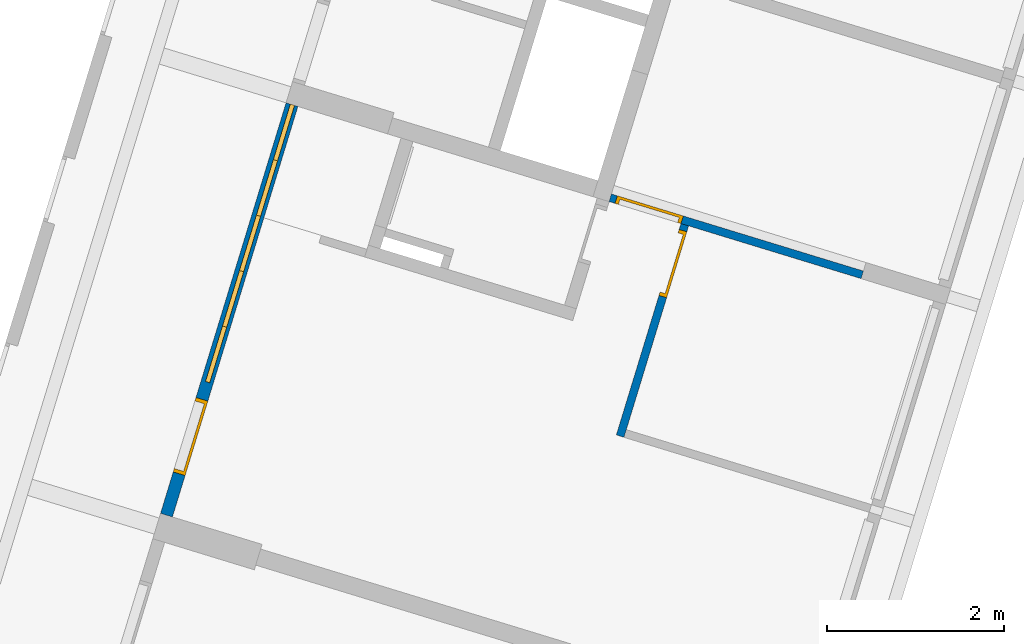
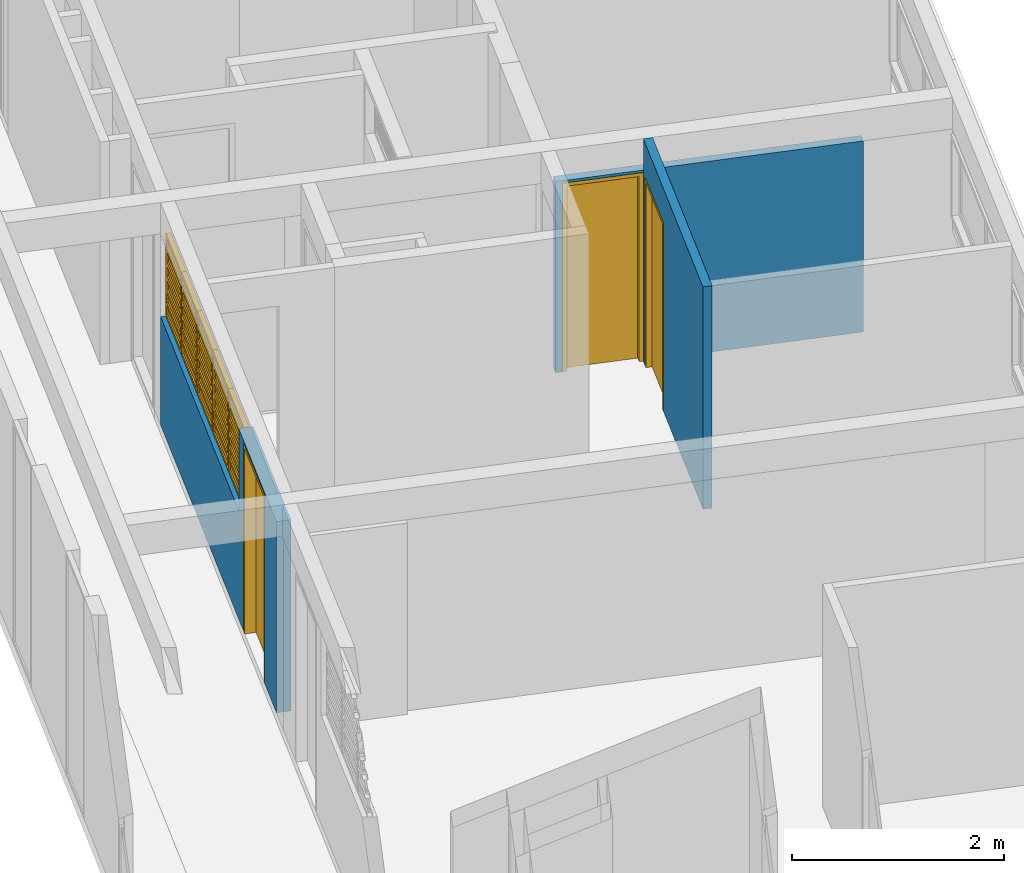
# One storey, part 3 of 18: 5 windows, 3 doors, 3 walls, 8 openings.
"""IFC2X3 building model written with IfcOpenShell, lengths in millimetres."""

from ifc_helpers import new_model, entity, si_unit, converted_unit, derived_unit, money_unit, direction, frame, origin_with_axes, place, context, subcontext, project, spatial, open_shell, faceted_brep, surface_model, source, transform, mapped, material, type_object, element, fill, save


model = new_model("IFC2X3")

# Units and contexts
model_context = context("Model", 3, precision=0.01, world=origin_with_axes(), true_north=direction((0.0, 1.0)))
body_context = subcontext(model_context, "Body", "Model", "MODEL_VIEW")
ifc_project = project(units=[si_unit("LENGTHUNIT", "METRE", prefix="MILLI"), si_unit("AREAUNIT", "SQUARE_METRE"), si_unit("VOLUMEUNIT", "CUBIC_METRE"), converted_unit("PLANEANGLEUNIT", "DEGREE", entity("IfcPlaneAngleMeasure", 0.0174532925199), si_unit("PLANEANGLEUNIT", "RADIAN"), dimensions=[0, 0, 0, 0, 0, 0, 0]), money_unit("USD"), converted_unit("TIMEUNIT", "Year", entity("IfcTimeMeasure", 31556926.0), si_unit("TIMEUNIT", "SECOND"), dimensions=[0, 0, 1, 0, 0, 0, 0]), si_unit("MASSUNIT", "GRAM", prefix="KILO"), si_unit("THERMODYNAMICTEMPERATUREUNIT", "DEGREE_CELSIUS"), si_unit("LUMINOUSINTENSITYUNIT", "LUMEN"), si_unit("ENERGYUNIT", "JOULE", prefix="MEGA"), derived_unit("THERMALCONDUCTANCEUNIT", [(si_unit("POWERUNIT", "WATT"), 1), (si_unit("LENGTHUNIT", "METRE"), -1), (si_unit("THERMODYNAMICTEMPERATUREUNIT", "KELVIN"), -1)]), derived_unit("SPECIFICHEATCAPACITYUNIT", [(si_unit("ENERGYUNIT", "JOULE"), 1), (si_unit("MASSUNIT", "GRAM", prefix="KILO"), -1), (si_unit("THERMODYNAMICTEMPERATUREUNIT", "KELVIN"), -1)]), derived_unit("MASSDENSITYUNIT", [(si_unit("MASSUNIT", "GRAM", prefix="KILO"), 1), (si_unit("VOLUMEUNIT", "CUBIC_METRE"), -1)])], contexts=[model_context])

# Site, building, storey, space
site_placement = place(None, frame((0.0, 0.0, 0.0), z_axis=(0.0, 0.0, 1.0), x_axis=(0.956304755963, -0.292371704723, 0.0)))
site = spatial("IfcSite", under=ifc_project, at=site_placement, Name="Site", CompositionType="ELEMENT")
building_placement = place(site_placement, origin_with_axes())
building = spatial("IfcBuilding", under=site, at=building_placement, Name="Building", CompositionType="ELEMENT")
storey_placement = place(building_placement, origin_with_axes())
storey = spatial("IfcBuildingStorey", under=building, at=storey_placement, Name="Pavimento tipo", CompositionType="ELEMENT", Elevation=0.0)
space_placement = place(storey_placement, frame((2841.71096673, 14639.9999947, 0.0), z_axis=(0.0, 0.0, 1.0), x_axis=(1.0, 1.43937078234e-07, 0.0)))
space = spatial("IfcSpace", under=storey, at=space_placement, Name="03", CompositionType="ELEMENT", InteriorOrExteriorSpace="INTERNAL")

# Wall, opening, door
ifc_material = material(Name="Tijolo - Estrutural")
wall_type_1 = type_object("IfcWallType", Name="Tijolo - Estrutural 90", PredefinedType="NOTDEFINED")
wall_1_placement = place(space_placement, frame((5600.00072263, 4909.98388379, 0.0), z_axis=(0.0, 0.0, 1.0), x_axis=(-1.0, 1.45674714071e-07, 0.0)))
wall_1 = element("IfcWall", 1, at=wall_1_placement, inside=space, type_object=wall_type_1, material=ifc_material, Name="Apt 03 - Parede 29", context=body_context, shape_type="Brep", body=[
    faceted_brep([(2909.99999781, -89.9999949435, 2170.0), (2909.99999781, -89.9999949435, 0.0), (2979.99987116, -89.9999948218, 0.0), (2979.99987116, -89.9999948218, 2200.0), (1.56386903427e-07, -90.0, 2200.0), (1.56386903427e-07, -90.0, 0.0), (2129.99999781, -89.9999962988, 0.0), (2129.99999781, -89.9999962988, 2170.0), (2909.99999766, 5.05652053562e-06, 2170.0), (2909.99999766, 5.05652053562e-06, 0.0), (2979.99994213, 5.17815479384e-06, 0.0), (2979.99994213, 5.17815479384e-06, 2200.0), (0.0, 0.0, 2200.0), (0.0, 0.0, 0.0), (2129.99999766, 3.70116381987e-06, 0.0), (2129.99999766, 3.70116381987e-06, 2170.0)], [[[0, 1, 2, 3, 4, 5, 6, 7]], [[1, 0, 8, 9]], [[1, 9, 10, 2]], [[2, 10, 11, 3]], [[3, 11, 12, 4]], [[12, 13, 5, 4]], [[14, 6, 5, 13]], [[7, 6, 14, 15]], [[0, 7, 15, 8]], [[15, 14, 13, 12, 11, 10, 9, 8]]]),
])
opening_1_placement = place(wall_1_placement, frame((2519.99999781, 0.0, 0.0), z_axis=(0.0, 0.0, 1.0), x_axis=(1.0, 0.0, 0.0)))
opening_1 = element("IfcOpeningElement", 2, at=opening_1_placement, cuts=wall_1, Name="Apt 03 - Porta 07", context=body_context, shape_type="Brep", body=[
    faceted_brep([(-389.999999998, -91.000001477, 2170.0), (-389.999999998, -91.000001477, 0.0), (390.000000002, -91.0000001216, 0.0), (390.000000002, -91.0000001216, 2170.0), (-390.000000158, 1.00000370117, 2170.0), (-390.000000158, 1.00000370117, 0.0), (389.999999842, 1.00000505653, 0.0), (389.999999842, 1.00000505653, 2170.0)], [[[0, 1, 2, 3]], [[4, 5, 1, 0]], [[5, 6, 2, 1]], [[6, 7, 3, 2]], [[7, 4, 0, 3]], [[6, 5, 4, 7]]]),
])
door_style_1 = type_object("IfcDoorStyle", Name="Door 26", ConstructionType="NOTDEFINED", OperationType="SINGLE_SWING_LEFT", ParameterTakesPrecedence=False, Sizeable=False)
shared_shape_1 = source(origin_with_axes(), body_context, "Body", "Brep", [
    faceted_brep([(350.0, -30.0, 0.0), (350.0, -90.0, 0.0), (350.0, -90.0, 2130.0), (350.0, -30.0, 2130.0), (360.0, -30.0, 0.0), (360.0, 0.0, 0.0), (390.0, 0.0, 0.0), (390.0, -90.0, 0.0), (390.0, -90.0, 2130.0), (360.0, -30.0, 2130.0), (390.0, 0.0, 2130.0), (360.0, 0.0, 2130.0)], [[[0, 1, 2, 3]], [[4, 5, 6, 7, 1, 0]], [[1, 7, 8, 2]], [[9, 3, 2, 8, 10, 11]], [[9, 4, 0, 3]], [[11, 5, 4, 9]], [[11, 10, 6, 5]], [[6, 10, 8, 7]]]),
    faceted_brep([(-360.0, -30.0, 2130.0), (-360.0, 0.0, 2130.0), (-390.0, 0.0, 2130.0), (-390.0, -90.0, 2130.0), (-350.0, -90.0, 2130.0), (-350.0, -30.0, 2130.0), (-360.0, -30.0, 0.0), (-360.0, 0.0, 0.0), (-390.0, 0.0, 0.0), (-390.0, -90.0, 0.0), (-350.0, -90.0, 0.0), (-350.0, -30.0, 0.0)], [[[0, 1, 2, 3, 4, 5]], [[0, 6, 7, 1]], [[7, 8, 2, 1]], [[2, 8, 9, 3]], [[3, 9, 10, 4]], [[5, 4, 10, 11]], [[5, 11, 6, 0]], [[6, 11, 10, 9, 8, 7]]]),
    faceted_brep([(360.0, 0.0, 2140.0), (-360.0, 0.0, 2140.0), (-360.0, 0.0, 2130.0), (-390.0, 0.0, 2130.0), (-390.0, 0.0, 2170.0), (390.0, 0.0, 2170.0), (390.0, 0.0, 2130.0), (360.0, 0.0, 2130.0), (360.0, -30.0, 2140.0), (-360.0, -30.0, 2140.0), (-360.0, -30.0, 2130.0), (-350.0, -30.0, 2130.0), (-350.0, -90.0, 2130.0), (-390.0, -90.0, 2130.0), (-390.0, -90.0, 2170.0), (390.0, -90.0, 2170.0), (390.0, -90.0, 2130.0), (360.0, -30.0, 2130.0), (350.0, -90.0, 2130.0), (350.0, -30.0, 2130.0)], [[[0, 1, 2, 3, 4, 5, 6, 7]], [[0, 8, 9, 1]], [[1, 9, 10, 2]], [[10, 11, 12, 13, 3, 2]], [[4, 3, 13, 14]], [[5, 4, 14, 15]], [[6, 5, 15, 16]], [[17, 7, 6, 16, 18, 19]], [[7, 17, 8, 0]], [[10, 9, 8, 17, 19, 11]], [[19, 18, 12, 11]], [[12, 18, 16, 15, 14, 13]]]),
    faceted_brep([(-360.0, 0.0, 0.0), (360.0, 0.0, 0.0), (360.0, -30.0, 0.0), (-360.0, -30.0, 0.0), (-360.0, 0.0, 2140.0), (360.0, 0.0, 2140.0), (360.0, -30.0, 2140.0), (-360.0, -30.0, 2140.0)], [[[0, 1, 2, 3]], [[0, 4, 5, 1]], [[1, 5, 6, 2]], [[3, 2, 6, 7]], [[4, 0, 3, 7]], [[5, 4, 7, 6]]]),
])
door_1_placement = place(opening_1_placement, frame((390.0, 0.0, 0.0), z_axis=(0.0, 0.0, 1.0), x_axis=(-1.0, 0.0, 0.0)))
door_1 = element("IfcDoor", 3, at=door_1_placement, inside=space, type_object=door_style_1, Name="Apt 03 - Porta 07", OverallHeight=2170.0, OverallWidth=780.0, context=body_context, shape_type="MappedRepresentation", body=[
    mapped(shared_shape_1, transform((390.0, 89.9999956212, 0.0))),
])
fill(opening_1, door_1)

wall_2_placement = place(space_placement, frame((3515.00072489, 4909.98418752, 0.0), z_axis=(0.0, 0.0, 1.0), x_axis=(-1.43937078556e-07, -1.0, 0.0)))
wall_2 = element("IfcWall", 4, at=wall_2_placement, inside=space, type_object=wall_type_1, material=ifc_material, Name="Apt 03 - Parede 40", context=body_context, shape_type="Brep", body=[
    faceted_brep([(849.778819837, 45.0, 0.0), (849.778819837, 45.0, 2170.0), (69.7788198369, 45.0, 2170.0), (69.7788198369, 45.0, 0.0), (3.6229685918e-06, 45.0, 0.0), (3.6229685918e-06, 45.0, 2200.0), (0.0, 45.0, 2560.0), (2499.9999754, 45.0, 2560.0), (2499.9999754, 45.0, 0.0), (849.778819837, -45.0, 0.0), (849.778819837, -45.0, 2170.0), (69.7788198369, -45.0, 2170.0), (69.7788198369, -45.0, 0.0), (3.6229685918e-06, -45.0, 0.0), (3.6229685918e-06, -45.0, 2200.0), (0.0, -45.0, 2560.0), (2500.00003182, -45.0, 2560.0), (2500.00003182, -45.0, 0.0)], [[[0, 1, 2, 3, 4, 5, 6, 7, 8]], [[1, 0, 9, 10]], [[2, 1, 10, 11]], [[3, 2, 11, 12]], [[3, 12, 13, 4]], [[13, 14, 5, 4]], [[6, 5, 14, 15]], [[16, 7, 6, 15]], [[17, 8, 7, 16]], [[9, 0, 8, 17]], [[10, 9, 17, 16, 15, 14, 13, 12, 11]]]),
])
opening_2_placement = place(wall_2_placement, frame((459.778819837, 0.0, 0.0), z_axis=(0.0, 0.0, 1.0), x_axis=(1.0, 0.0, 0.0)))
opening_2 = element("IfcOpeningElement", 5, at=opening_2_placement, cuts=wall_2, Name="Apt 03 - Porta 08", context=body_context, shape_type="Brep", body=[
    faceted_brep([(390.0, 46.0, 2170.0), (390.0, 46.0, 0.0), (-390.0, 46.0, 0.0), (-390.0, 46.0, 2170.0), (390.0, -46.0, 2170.0), (390.0, -46.0, 0.0), (-390.0, -46.0, 0.0), (-390.0, -46.0, 2170.0)], [[[0, 1, 2, 3]], [[4, 5, 1, 0]], [[5, 6, 2, 1]], [[6, 7, 3, 2]], [[7, 4, 0, 3]], [[6, 5, 4, 7]]]),
])
door_2_placement = place(opening_2_placement, frame((-390.0, 0.0, 0.0), z_axis=(0.0, 0.0, 1.0), x_axis=(1.0, 0.0, 0.0)))
door_2 = element("IfcDoor", 6, at=door_2_placement, inside=space, type_object=door_style_1, Name="Apt 03 - Porta 08", OverallHeight=2170.0, OverallWidth=780.0, context=body_context, shape_type="MappedRepresentation", body=[
    mapped(shared_shape_1, transform((390.0, 45.0, 0.0))),
])
fill(opening_2, door_2)

# Wall, openings, windows, door
wall_type_2 = type_object("IfcWallType", Name="Tijolo - Estrutural 140", PredefinedType="NOTDEFINED")
wall_3_placement = place(storey_placement, frame((1711.71098285, 19549.9999933, 0.0), z_axis=(0.0, 0.0, 1.0), x_axis=(0.0, -1.0, 0.0)))
wall_3 = element("IfcWall", 7, at=wall_3_placement, inside=storey, type_object=wall_type_2, material=ifc_material, Name="Apt 03 - Parede 34", context=body_context, shape_type="Brep", body=[
    faceted_brep([(4364.99999858, 70.0, 0.0), (4364.99999858, 70.0, 2170.0), (3484.99999858, 70.0, 2170.0), (3484.99999858, 70.0, 0.0), (0.0, 70.0, 0.0), (0.0, 70.0, 1250.0), (3280.0, 70.0, 1250.0), (3280.0, 70.0, 2200.0), (4854.99999858, 70.0, 2200.0), (4854.99999858, 70.0, 0.0), (4364.99999858, -70.0, 0.0), (4364.99999858, -70.0, 2170.0), (3484.99999858, -70.0, 2170.0), (3484.99999858, -70.0, 0.0), (0.0, -70.0, 0.0), (0.0, -70.0, 1250.0), (3280.0, -70.0, 1250.0), (3280.0, -70.0, 2200.0), (4854.99999858, -70.0, 2200.0), (4854.99999858, -70.0, 0.0)], [[[0, 1, 2, 3, 4, 5, 6, 7, 8, 9]], [[1, 0, 10, 11]], [[2, 1, 11, 12]], [[3, 2, 12, 13]], [[3, 13, 14, 4]], [[4, 14, 15, 5]], [[15, 16, 6, 5]], [[6, 16, 17, 7]], [[17, 18, 8, 7]], [[8, 18, 19, 9]], [[10, 0, 9, 19]], [[11, 10, 19, 18, 17, 16, 15, 14, 13, 12]]]),
])
opening_3_placement = place(wall_3_placement, frame((328.0, 0.0, 1250.0), z_axis=(0.0, 0.0, 1.0), x_axis=(1.0, 0.0, 0.0)))
opening_3 = element("IfcOpeningElement", 8, at=opening_3_placement, cuts=wall_3, Name="Apt 03 - J14", context=body_context, shape_type="Brep", body=[
    faceted_brep([(328.0, -20.0, 0.0), (328.0, -20.0, 950.0), (328.0, -71.0, 950.0), (328.0, -71.0, 0.0), (328.0, 71.0, 0.0), (328.0, 71.0, 950.0), (-328.0, -20.0, 950.0), (-328.0, -71.0, 950.0), (-328.0, 71.0, 950.0), (-328.0, -71.0, 0.0), (-328.0, -20.0, 0.0), (-328.0, 71.0, 0.0)], [[[0, 1, 2, 3]], [[1, 0, 4, 5]], [[6, 7, 2, 1, 5, 8]], [[7, 9, 3, 2]], [[0, 3, 9, 10, 11, 4]], [[5, 4, 11, 8]], [[6, 10, 9, 7]], [[10, 6, 8, 11]]]),
])
opening_4_placement = place(wall_3_placement, frame((984.0, 0.0, 1250.0), z_axis=(0.0, 0.0, 1.0), x_axis=(1.0, 0.0, 0.0)))
opening_4 = element("IfcOpeningElement", 9, at=opening_4_placement, cuts=wall_3, Name="Apt 03 - J15", context=body_context, shape_type="Brep", body=[
    faceted_brep([(328.0, -20.0, 0.0), (328.0, -20.0, 950.0), (328.0, -71.0, 950.0), (328.0, -71.0, 0.0), (328.0, 71.0, 0.0), (328.0, 71.0, 950.0), (-328.0, -20.0, 950.0), (-328.0, -71.0, 950.0), (-328.0, 71.0, 950.0), (-328.0, -71.0, 0.0), (-328.0, -20.0, 0.0), (-328.0, 71.0, 0.0)], [[[0, 1, 2, 3]], [[1, 0, 4, 5]], [[6, 7, 2, 1, 5, 8]], [[7, 9, 3, 2]], [[0, 3, 9, 10, 11, 4]], [[5, 4, 11, 8]], [[6, 10, 9, 7]], [[10, 6, 8, 11]]]),
])
opening_5_placement = place(wall_3_placement, frame((1640.0, 0.0, 1250.0), z_axis=(0.0, 0.0, 1.0), x_axis=(1.0, 0.0, 0.0)))
opening_5 = element("IfcOpeningElement", 10, at=opening_5_placement, cuts=wall_3, Name="Apt 03 - J16", context=body_context, shape_type="Brep", body=[
    faceted_brep([(328.0, -20.0, 0.0), (328.0, -20.0, 950.0), (328.0, -71.0, 950.0), (328.0, -71.0, 0.0), (328.0, 71.0, 0.0), (328.0, 71.0, 950.0), (-328.0, -20.0, 950.0), (-328.0, -71.0, 950.0), (-328.0, 71.0, 950.0), (-328.0, -71.0, 0.0), (-328.0, -20.0, 0.0), (-328.0, 71.0, 0.0)], [[[0, 1, 2, 3]], [[1, 0, 4, 5]], [[6, 7, 2, 1, 5, 8]], [[7, 9, 3, 2]], [[0, 3, 9, 10, 11, 4]], [[5, 4, 11, 8]], [[6, 10, 9, 7]], [[10, 6, 8, 11]]]),
])
opening_6_placement = place(wall_3_placement, frame((2296.0, 0.0, 1250.0), z_axis=(0.0, 0.0, 1.0), x_axis=(1.0, 0.0, 0.0)))
opening_6 = element("IfcOpeningElement", 11, at=opening_6_placement, cuts=wall_3, Name="Apt 03 - J17", context=body_context, shape_type="Brep", body=[
    faceted_brep([(328.0, -20.0, 0.0), (328.0, -20.0, 950.0), (328.0, -71.0, 950.0), (328.0, -71.0, 0.0), (328.0, 71.0, 0.0), (328.0, 71.0, 950.0), (-328.0, -20.0, 950.0), (-328.0, -71.0, 950.0), (-328.0, 71.0, 950.0), (-328.0, -71.0, 0.0), (-328.0, -20.0, 0.0), (-328.0, 71.0, 0.0)], [[[0, 1, 2, 3]], [[1, 0, 4, 5]], [[6, 7, 2, 1, 5, 8]], [[7, 9, 3, 2]], [[0, 3, 9, 10, 11, 4]], [[5, 4, 11, 8]], [[6, 10, 9, 7]], [[10, 6, 8, 11]]]),
])
opening_7_placement = place(wall_3_placement, frame((2952.0, 0.0, 1250.0), z_axis=(0.0, 0.0, 1.0), x_axis=(1.0, 0.0, 0.0)))
opening_7 = element("IfcOpeningElement", 12, at=opening_7_placement, cuts=wall_3, Name="Apt 03 - J18", context=body_context, shape_type="Brep", body=[
    faceted_brep([(328.0, -20.0, 0.0), (328.0, -20.0, 950.0), (328.0, -71.0, 950.0), (328.0, -71.0, 0.0), (328.0, 71.0, 0.0), (328.0, 71.0, 950.0), (-328.0, -20.0, 950.0), (-328.0, -71.0, 950.0), (-328.0, 71.0, 950.0), (-328.0, -71.0, 0.0), (-328.0, -20.0, 0.0), (-328.0, 71.0, 0.0)], [[[0, 1, 2, 3]], [[1, 0, 4, 5]], [[6, 7, 2, 1, 5, 8]], [[7, 9, 3, 2]], [[0, 3, 9, 10, 11, 4]], [[5, 4, 11, 8]], [[6, 10, 9, 7]], [[10, 6, 8, 11]]]),
])
opening_8_placement = place(wall_3_placement, frame((3924.99999858, 0.0, 0.0), z_axis=(0.0, 0.0, 1.0), x_axis=(1.0, 0.0, 0.0)))
opening_8 = element("IfcOpeningElement", 13, at=opening_8_placement, cuts=wall_3, Name="Apt 03 - Porta 06", context=body_context, shape_type="Brep", body=[
    faceted_brep([(440.0, 71.0, 2170.0), (440.0, 71.0, 0.0), (-440.0, 71.0, 0.0), (-440.0, 71.0, 2170.0), (440.0, -71.0, 2170.0), (440.0, -71.0, 0.0), (-440.0, -71.0, 0.0), (-440.0, -71.0, 2170.0)], [[[0, 1, 2, 3]], [[4, 5, 1, 0]], [[5, 6, 2, 1]], [[6, 7, 3, 2]], [[7, 4, 0, 3]], [[6, 5, 4, 7]]]),
])
window_style = type_object("IfcWindowStyle", Name="Janela Multi-Caixilho Vertical 26", ConstructionType="NOTDEFINED", OperationType="USERDEFINED", ParameterTakesPrecedence=False, Sizeable=False)
shared_shape_2 = source(origin_with_axes(), body_context, "Body", "SurfaceModel", [
    faceted_brep([(-293.0, -50.0, 915.0), (-293.0, 0.0, 915.0), (-328.0, 0.0, 915.0), (-328.0, -50.0, 915.0), (-293.0, -50.0, 807.5), (-293.0, 0.0, 807.5), (-283.0, 0.0, 762.5), (-283.0, 0.0, 655.0), (-283.0, 0.0, 600.0), (-283.0, 0.0, 492.5), (-283.0, 0.0, 437.5), (-283.0, 0.0, 330.0), (-293.0, 0.0, 285.0), (-293.0, 0.0, 177.5), (-293.0, 0.0, 142.5), (-293.0, 0.0, 35.0), (-328.0, 0.0, 35.0), (-328.0, -50.0, 35.0), (-293.0, -50.0, 35.0), (-293.0, -50.0, 142.5), (-293.0, -50.0, 177.5), (-293.0, -50.0, 285.0), (-283.0, -50.0, 330.0), (-283.0, -50.0, 437.5), (-283.0, -50.0, 492.5), (-283.0, -50.0, 600.0), (-283.0, -50.0, 655.0), (-283.0, -50.0, 762.5)], [[[0, 1, 2, 3]], [[4, 5, 1, 0]], [[1, 5, 6, 7, 8, 9, 10, 11, 12, 13, 14, 15, 16, 2]], [[3, 2, 16, 17]], [[0, 3, 17, 18, 19, 20, 21, 22, 23, 24, 25, 26, 27, 4]], [[27, 6, 5, 4]], [[26, 7, 6, 27]], [[25, 8, 7, 26]], [[24, 9, 8, 25]], [[23, 10, 9, 24]], [[22, 11, 10, 23]], [[21, 12, 11, 22]], [[20, 13, 12, 21]], [[19, 14, 13, 20]], [[18, 15, 14, 19]], [[17, 16, 15, 18]]]),
    faceted_brep([(293.0, -50.0, 807.5), (293.0, 0.0, 807.5), (283.0, 0.0, 762.5), (283.0, -50.0, 762.5), (293.0, -50.0, 915.0), (293.0, 0.0, 915.0), (328.0, 0.0, 915.0), (328.0, 0.0, 35.0), (293.0, 0.0, 35.0), (293.0, 0.0, 142.5), (293.0, 0.0, 177.5), (293.0, 0.0, 285.0), (283.0, 0.0, 330.0), (283.0, 0.0, 437.5), (283.0, 0.0, 492.5), (283.0, 0.0, 600.0), (283.0, 0.0, 655.0), (283.0, -50.0, 655.0), (283.0, -50.0, 600.0), (283.0, -50.0, 492.5), (283.0, -50.0, 437.5), (283.0, -50.0, 330.0), (293.0, -50.0, 285.0), (293.0, -50.0, 177.5), (293.0, -50.0, 142.5), (293.0, -50.0, 35.0), (328.0, -50.0, 35.0), (328.0, -50.0, 915.0)], [[[0, 1, 2, 3]], [[4, 5, 1, 0]], [[1, 5, 6, 7, 8, 9, 10, 11, 12, 13, 14, 15, 16, 2]], [[3, 2, 16, 17]], [[0, 3, 17, 18, 19, 20, 21, 22, 23, 24, 25, 26, 27, 4]], [[27, 6, 5, 4]], [[26, 7, 6, 27]], [[25, 8, 7, 26]], [[24, 9, 8, 25]], [[23, 10, 9, 24]], [[22, 11, 10, 23]], [[21, 12, 11, 22]], [[20, 13, 12, 21]], [[19, 14, 13, 20]], [[18, 15, 14, 19]], [[17, 16, 15, 18]]]),
    faceted_brep([(293.0, -50.0, 915.0), (293.0, 0.0, 915.0), (328.0, 0.0, 915.0), (328.0, -50.0, 915.0), (-293.0, -50.0, 915.0), (-293.0, 0.0, 915.0), (-328.0, 0.0, 915.0), (-328.0, 0.0, 950.0), (328.0, 0.0, 950.0), (328.0, -50.0, 950.0), (-328.0, -50.0, 950.0), (-328.0, -50.0, 915.0)], [[[0, 1, 2, 3]], [[4, 5, 1, 0]], [[1, 5, 6, 7, 8, 2]], [[3, 2, 8, 9]], [[0, 3, 9, 10, 11, 4]], [[11, 6, 5, 4]], [[10, 7, 6, 11]], [[9, 8, 7, 10]]]),
    faceted_brep([(-293.0, -50.0, 35.0), (-293.0, 0.0, 35.0), (-328.0, 0.0, 35.0), (-328.0, -50.0, 35.0), (293.0, -50.0, 35.0), (293.0, 0.0, 35.0), (328.0, 0.0, 35.0), (328.0, 0.0, 0.0), (-328.0, 0.0, 0.0), (-328.0, -50.0, 0.0), (328.0, -50.0, 0.0), (328.0, -50.0, 35.0)], [[[0, 1, 2, 3]], [[4, 5, 1, 0]], [[1, 5, 6, 7, 8, 2]], [[3, 2, 8, 9]], [[0, 3, 9, 10, 11, 4]], [[11, 6, 5, 4]], [[10, 7, 6, 11]], [[9, 8, 7, 10]]]),
    faceted_brep([(293.0, -50.0, 177.5), (293.0, 0.0, 177.5), (-293.0, 0.0, 177.5), (-293.0, -50.0, 177.5), (293.0, -50.0, 142.5), (293.0, 0.0, 142.5), (-293.0, 0.0, 142.5), (-293.0, -50.0, 142.5)], [[[0, 1, 2, 3]], [[4, 5, 1, 0]], [[1, 5, 6, 2]], [[3, 2, 6, 7]], [[0, 3, 7, 4]], [[7, 6, 5, 4]]]),
    faceted_brep([(283.0, -50.0, 330.0), (283.0, 0.0, 330.0), (-283.0, 0.0, 330.0), (-283.0, -50.0, 330.0), (293.0, -50.0, 285.0), (293.0, 0.0, 285.0), (-293.0, 0.0, 285.0), (-293.0, -50.0, 285.0)], [[[0, 1, 2, 3]], [[4, 5, 1, 0]], [[1, 5, 6, 2]], [[3, 2, 6, 7]], [[0, 3, 7, 4]], [[7, 6, 5, 4]]]),
    faceted_brep([(283.0, -50.0, 492.5), (283.0, 0.0, 492.5), (-283.0, 0.0, 492.5), (-283.0, -50.0, 492.5), (283.0, -50.0, 437.5), (283.0, 0.0, 437.5), (-283.0, 0.0, 437.5), (-283.0, -50.0, 437.5)], [[[0, 1, 2, 3]], [[4, 5, 1, 0]], [[1, 5, 6, 2]], [[3, 2, 6, 7]], [[0, 3, 7, 4]], [[7, 6, 5, 4]]]),
    faceted_brep([(283.0, -50.0, 655.0), (283.0, 0.0, 655.0), (-283.0, 0.0, 655.0), (-283.0, -50.0, 655.0), (283.0, -50.0, 600.0), (283.0, 0.0, 600.0), (-283.0, 0.0, 600.0), (-283.0, -50.0, 600.0)], [[[0, 1, 2, 3]], [[4, 5, 1, 0]], [[1, 5, 6, 2]], [[3, 2, 6, 7]], [[0, 3, 7, 4]], [[7, 6, 5, 4]]]),
    faceted_brep([(293.0, -50.0, 807.5), (293.0, 0.0, 807.5), (-293.0, 0.0, 807.5), (-293.0, -50.0, 807.5), (283.0, -50.0, 762.5), (283.0, 0.0, 762.5), (-283.0, 0.0, 762.5), (-283.0, -50.0, 762.5)], [[[0, 1, 2, 3]], [[4, 5, 1, 0]], [[1, 5, 6, 2]], [[3, 2, 6, 7]], [[0, 3, 7, 4]], [[7, 6, 5, 4]]]),
    surface_model("IfcShellBasedSurfaceModel", [(-293.0, -35.0, 35.0), (293.0, -35.0, 35.0), (293.0, -35.0, 142.5), (-293.0, -35.0, 142.5)], [open_shell([[[0, 1, 2, 3]]])]),
    surface_model("IfcShellBasedSurfaceModel", [(-293.0, -15.0, 35.0), (-293.0, -15.0, 142.5), (293.0, -15.0, 142.5), (293.0, -15.0, 35.0)], [open_shell([[[0, 1, 2, 3]]])]),
    surface_model("IfcShellBasedSurfaceModel", [(-293.0, -35.0, 177.5), (293.0, -35.0, 177.5), (293.0, -35.0, 285.0), (-293.0, -35.0, 285.0)], [open_shell([[[0, 1, 2, 3]]])]),
    surface_model("IfcShellBasedSurfaceModel", [(-293.0, -15.0, 177.5), (-293.0, -15.0, 285.0), (293.0, -15.0, 285.0), (293.0, -15.0, 177.5)], [open_shell([[[0, 1, 2, 3]]])]),
    surface_model("IfcShellBasedSurfaceModel", [(-283.0, -15.0, 330.0), (-283.0, -15.0, 437.5), (283.0, -15.0, 437.5), (283.0, -15.0, 330.0)], [open_shell([[[0, 1, 2, 3]]])]),
    surface_model("IfcShellBasedSurfaceModel", [(-283.0, -35.0, 330.0), (283.0, -35.0, 330.0), (283.0, -35.0, 437.5), (-283.0, -35.0, 437.5)], [open_shell([[[0, 1, 2, 3]]])]),
    surface_model("IfcShellBasedSurfaceModel", [(-283.0, -15.0, 492.5), (-283.0, -15.0, 600.0), (283.0, -15.0, 600.0), (283.0, -15.0, 492.5)], [open_shell([[[0, 1, 2, 3]]])]),
    surface_model("IfcShellBasedSurfaceModel", [(-283.0, -35.0, 492.5), (283.0, -35.0, 492.5), (283.0, -35.0, 600.0), (-283.0, -35.0, 600.0)], [open_shell([[[0, 1, 2, 3]]])]),
    surface_model("IfcShellBasedSurfaceModel", [(-283.0, -15.0, 655.0), (-283.0, -15.0, 762.5), (283.0, -15.0, 762.5), (283.0, -15.0, 655.0)], [open_shell([[[0, 1, 2, 3]]])]),
    surface_model("IfcShellBasedSurfaceModel", [(-283.0, -35.0, 655.0), (283.0, -35.0, 655.0), (283.0, -35.0, 762.5), (-283.0, -35.0, 762.5)], [open_shell([[[0, 1, 2, 3]]])]),
    surface_model("IfcShellBasedSurfaceModel", [(-293.0, -35.0, 807.5), (293.0, -35.0, 807.5), (293.0, -35.0, 915.0), (-293.0, -35.0, 915.0)], [open_shell([[[0, 1, 2, 3]]])]),
    surface_model("IfcShellBasedSurfaceModel", [(-293.0, -15.0, 807.5), (-293.0, -15.0, 915.0), (293.0, -15.0, 915.0), (293.0, -15.0, 807.5)], [open_shell([[[0, 1, 2, 3]]])]),
])
window_1_placement = place(opening_3_placement, frame((328.0, 0.0, 0.0), z_axis=(0.0, 0.0, 1.0), x_axis=(-1.0, 0.0, 0.0)))
window_1 = element("IfcWindow", 14, at=window_1_placement, inside=storey, type_object=window_style, Name="Apt 03 - J14", OverallHeight=950.0, OverallWidth=656.0, context=body_context, shape_type="MappedRepresentation", body=[
    mapped(shared_shape_2, transform((328.0, 20.0, 0.0))),
])
fill(opening_3, window_1)
window_2_placement = place(opening_4_placement, frame((328.0, 0.0, 0.0), z_axis=(0.0, 0.0, 1.0), x_axis=(-1.0, 0.0, 0.0)))
window_2 = element("IfcWindow", 15, at=window_2_placement, inside=storey, type_object=window_style, Name="Apt 03 - J15", OverallHeight=950.0, OverallWidth=656.0, context=body_context, shape_type="MappedRepresentation", body=[
    mapped(shared_shape_2, transform((328.0, 20.0, 0.0))),
])
fill(opening_4, window_2)
window_3_placement = place(opening_5_placement, frame((328.0, 0.0, 0.0), z_axis=(0.0, 0.0, 1.0), x_axis=(-1.0, 0.0, 0.0)))
window_3 = element("IfcWindow", 16, at=window_3_placement, inside=storey, type_object=window_style, Name="Apt 03 - J16", OverallHeight=950.0, OverallWidth=656.0, context=body_context, shape_type="MappedRepresentation", body=[
    mapped(shared_shape_2, transform((328.0, 20.0, 0.0))),
])
fill(opening_5, window_3)
window_4_placement = place(opening_6_placement, frame((328.0, 0.0, 0.0), z_axis=(0.0, 0.0, 1.0), x_axis=(-1.0, 0.0, 0.0)))
window_4 = element("IfcWindow", 17, at=window_4_placement, inside=storey, type_object=window_style, Name="Apt 03 - J17", OverallHeight=950.0, OverallWidth=656.0, context=body_context, shape_type="MappedRepresentation", body=[
    mapped(shared_shape_2, transform((328.0, 20.0, 0.0))),
])
fill(opening_6, window_4)
window_5_placement = place(opening_7_placement, frame((328.0, 0.0, 0.0), z_axis=(0.0, 0.0, 1.0), x_axis=(-1.0, 0.0, 0.0)))
window_5 = element("IfcWindow", 18, at=window_5_placement, inside=storey, type_object=window_style, Name="Apt 03 - J18", OverallHeight=950.0, OverallWidth=656.0, context=body_context, shape_type="MappedRepresentation", body=[
    mapped(shared_shape_2, transform((328.0, 20.0, 0.0))),
])
fill(opening_7, window_5)
door_style_2 = type_object("IfcDoorStyle", Name="Door 26", ConstructionType="NOTDEFINED", OperationType="SINGLE_SWING_RIGHT", ParameterTakesPrecedence=False, Sizeable=False)
shared_shape_3 = source(origin_with_axes(), body_context, "Body", "Brep", [
    faceted_brep([(-400.0, -30.0, 0.0), (-400.0, -30.0, 2130.0), (-400.0, -140.0, 2130.0), (-400.0, -140.0, 0.0), (-410.0, -30.0, 2130.0), (-410.0, -30.0, 0.0), (-410.0, 0.0, 2130.0), (-440.0, 0.0, 2130.0), (-440.0, -140.0, 2130.0), (-440.0, -140.0, 0.0), (-440.0, 0.0, 0.0), (-410.0, 0.0, 0.0)], [[[0, 1, 2, 3]], [[4, 1, 0, 5]], [[4, 6, 7, 8, 2, 1]], [[3, 2, 8, 9]], [[5, 0, 3, 9, 10, 11]], [[6, 4, 5, 11]], [[6, 11, 10, 7]], [[10, 9, 8, 7]]]),
    faceted_brep([(410.0, -30.0, 2130.0), (400.0, -30.0, 2130.0), (400.0, -140.0, 2130.0), (440.0, -140.0, 2130.0), (440.0, 0.0, 2130.0), (410.0, 0.0, 2130.0), (410.0, -30.0, 0.0), (400.0, -30.0, 0.0), (400.0, -140.0, 0.0), (440.0, -140.0, 0.0), (440.0, 0.0, 0.0), (410.0, 0.0, 0.0)], [[[0, 1, 2, 3, 4, 5]], [[1, 0, 6, 7]], [[1, 7, 8, 2]], [[3, 2, 8, 9]], [[4, 3, 9, 10]], [[11, 5, 4, 10]], [[0, 5, 11, 6]], [[6, 11, 10, 9, 8, 7]]]),
    faceted_brep([(-410.0, 0.0, 2140.0), (-410.0, 0.0, 2130.0), (-440.0, 0.0, 2130.0), (-440.0, 0.0, 2170.0), (440.0, 0.0, 2170.0), (440.0, 0.0, 2130.0), (410.0, 0.0, 2130.0), (410.0, 0.0, 2140.0), (-410.0, -30.0, 2140.0), (-410.0, -30.0, 2130.0), (-400.0, -30.0, 2130.0), (-400.0, -140.0, 2130.0), (-440.0, -140.0, 2130.0), (-440.0, -140.0, 2170.0), (440.0, -140.0, 2170.0), (440.0, -140.0, 2130.0), (410.0, -30.0, 2130.0), (400.0, -140.0, 2130.0), (400.0, -30.0, 2130.0), (410.0, -30.0, 2140.0)], [[[0, 1, 2, 3, 4, 5, 6, 7]], [[1, 0, 8, 9]], [[9, 10, 11, 12, 2, 1]], [[2, 12, 13, 3]], [[3, 13, 14, 4]], [[4, 14, 15, 5]], [[16, 6, 5, 15, 17, 18]], [[7, 6, 16, 19]], [[0, 7, 19, 8]], [[16, 18, 10, 9, 8, 19]], [[10, 18, 17, 11]], [[17, 15, 14, 13, 12, 11]]]),
    faceted_brep([(410.0, 0.0, 0.0), (410.0, -30.0, 0.0), (-410.0, -30.0, 0.0), (-410.0, 0.0, 0.0), (410.0, 0.0, 2140.0), (410.0, -30.0, 2140.0), (-410.0, -30.0, 2140.0), (-410.0, 0.0, 2140.0)], [[[0, 1, 2, 3]], [[4, 5, 1, 0]], [[1, 5, 6, 2]], [[3, 2, 6, 7]], [[0, 3, 7, 4]], [[7, 6, 5, 4]]]),
])
door_3_placement = place(opening_8_placement, frame((-440.0, 0.0, 0.0), z_axis=(0.0, 0.0, 1.0), x_axis=(1.0, 0.0, 0.0)))
door_3 = element("IfcDoor", 19, at=door_3_placement, inside=storey, type_object=door_style_2, Name="Apt 03 - Porta 06", OverallHeight=2170.0, OverallWidth=880.0, context=body_context, shape_type="MappedRepresentation", body=[
    mapped(shared_shape_3, transform((440.0, 70.0, 0.0))),
])
fill(opening_8, door_3)

save(model, "model.ifc")
